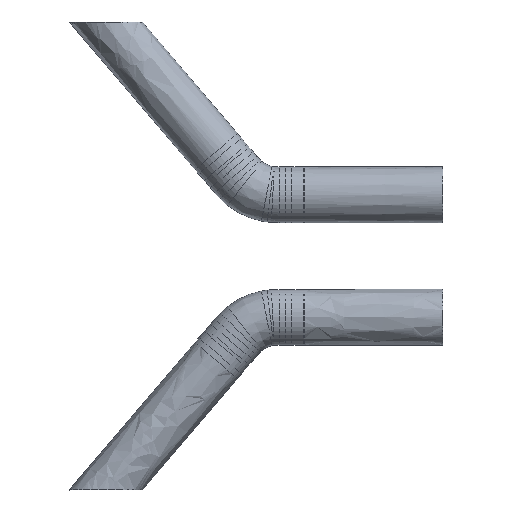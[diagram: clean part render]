
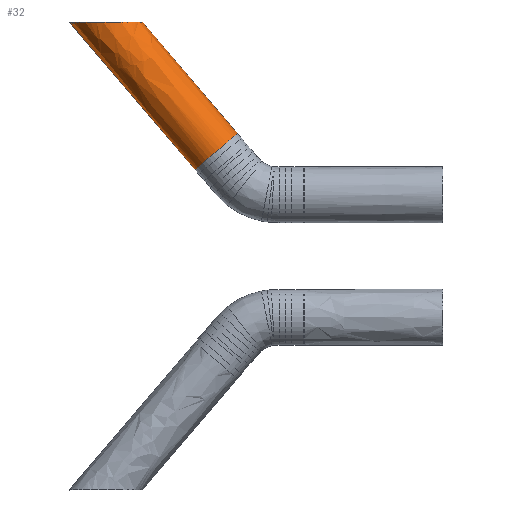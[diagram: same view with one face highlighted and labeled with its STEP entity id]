
A CAD part, top view. The second image highlights one B-rep face of the part: STEP entity #32.
In plain terms, the highlighted free-form (B-spline) face has degree [3, 2] with [5, 9] control points.
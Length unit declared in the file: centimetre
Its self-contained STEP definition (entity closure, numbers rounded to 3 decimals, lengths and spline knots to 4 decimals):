
#32=ADVANCED_FACE('',(#74),#722,.T.);
#74=FACE_OUTER_BOUND('',#116,.T.);
#116=EDGE_LOOP('',(#206,#207,#208,#209));
#206=ORIENTED_EDGE('',*,*,#408,.F.);
#207=ORIENTED_EDGE('',*,*,#410,.F.);
#208=ORIENTED_EDGE('',*,*,#416,.T.);
#209=ORIENTED_EDGE('',*,*,#409,.T.);
#408=EDGE_CURVE('',#636,#637,#508,.T.);
#409=EDGE_CURVE('',#669,#637,#586,.T.);
#410=EDGE_CURVE('',#668,#636,#587,.T.);
#416=EDGE_CURVE('',#668,#669,#486,.T.);
#486=B_SPLINE_CURVE_WITH_KNOTS('',3,(#1561,#1562,#1563,#1564,#1565,#1566,
#1567,#1568,#1569,#1570,#1571,#1572,#1573,#1574,#1575,#1576,#1577,#1578,
#1579,#1580,#1581,#1582),.UNSPECIFIED.,.F.,.F.,(4,2,2,2,3,2,2,2,3,4),(-15.4756,
-14.4548,-13.5072,-11.5503,-7.738,
-3.9248,-1.9679,-0.9848,0.,
0.),.UNSPECIFIED.);
#508=TRIMMED_CURVE($,#544,(#1511),(#1512),.T.,.CARTESIAN.);
#544=CIRCLE('',#869,4.2);
#586=(
BOUNDED_CURVE()
B_SPLINE_CURVE(3,(#1513,#1514,#1515,#1516,#1517),.UNSPECIFIED.,.F.,.F.)
B_SPLINE_CURVE_WITH_KNOTS((4,1,4),(0.,17.8797,29.2353),
 .UNSPECIFIED.)
CURVE()
GEOMETRIC_REPRESENTATION_ITEM()
RATIONAL_B_SPLINE_CURVE((1.,1.,1.,1.,1.))
REPRESENTATION_ITEM('')
);
#587=(
BOUNDED_CURVE()
B_SPLINE_CURVE(3,(#1518,#1519,#1520,#1521,#1522,#1523,#1524),
 .UNSPECIFIED.,.F.,.F.)
B_SPLINE_CURVE_WITH_KNOTS((4,3,4),(8.7728,19.5094,30.8618),
 .UNSPECIFIED.)
CURVE()
GEOMETRIC_REPRESENTATION_ITEM()
RATIONAL_B_SPLINE_CURVE((1.,1.,1.,1.,1.,1.,1.))
REPRESENTATION_ITEM('')
);
#636=VERTEX_POINT('',#1336);
#637=VERTEX_POINT('',#1337);
#668=VERTEX_POINT('',#1368);
#669=VERTEX_POINT('',#1369);
#722=(
BOUNDED_SURFACE()
B_SPLINE_SURFACE(3,2,((#1241,#1242,#1243,#1244,#1245,#1246,#1247,#1248,
#1249),(#1250,#1251,#1252,#1253,#1254,#1255,#1256,#1257,#1258),(#1259,#1260,
#1261,#1262,#1263,#1264,#1265,#1266,#1267),(#1268,#1269,#1270,#1271,#1272,
#1273,#1274,#1275,#1276),(#1277,#1278,#1279,#1280,#1281,#1282,#1283,#1284,
#1285)),.UNSPECIFIED.,.F.,.F.,.F.)
B_SPLINE_SURFACE_WITH_KNOTS((4,1,4),(3,2,2,2,3),(0.,19.508,30.8618),
(0.,6.5973,13.1947,19.792,26.3894),
 .UNSPECIFIED.)
GEOMETRIC_REPRESENTATION_ITEM()
RATIONAL_B_SPLINE_SURFACE(((1.,0.707,1.,0.707,1.,
0.707,1.,0.707,1.),(1.,0.707,1.,0.707,
1.,0.707,1.,0.707,1.),(1.,0.707,1.,
0.707,1.,0.707,1.,0.707,1.),(1.,0.707,
1.,0.707,1.,0.707,1.,0.707,1.),(1.,
0.707,1.,0.707,1.,0.707,1.,0.707,
1.)))
REPRESENTATION_ITEM('')
SURFACE()
);
#869=AXIS2_PLACEMENT_3D($,#1510,#950,#951);
#950=DIRECTION('',(0.649,-0.761,0.));
#951=DIRECTION('',(0.761,0.649,0.));
#1241=CARTESIAN_POINT('',(-864.748,149.0101,-0.0001));
#1242=CARTESIAN_POINT('',(-864.748,149.0101,-4.2001));
#1243=CARTESIAN_POINT('',(-867.9477,146.2895,-4.2001));
#1244=CARTESIAN_POINT('',(-871.1474,143.5689,-4.2001));
#1245=CARTESIAN_POINT('',(-871.1474,143.5689,-0.0001));
#1246=CARTESIAN_POINT('',(-871.1474,143.5689,4.1999));
#1247=CARTESIAN_POINT('',(-867.9477,146.2895,4.1999));
#1248=CARTESIAN_POINT('',(-864.748,149.0101,4.1999));
#1249=CARTESIAN_POINT('',(-864.748,149.0101,-0.0001));
#1250=CARTESIAN_POINT('',(-860.5353,144.0578,-0.0001));
#1251=CARTESIAN_POINT('',(-860.5353,144.0578,-4.2001));
#1252=CARTESIAN_POINT('',(-863.7344,141.3364,-4.2001));
#1253=CARTESIAN_POINT('',(-866.9334,138.6151,-4.2001));
#1254=CARTESIAN_POINT('',(-866.9334,138.6151,-0.0001));
#1255=CARTESIAN_POINT('',(-866.9335,138.6151,4.1999));
#1256=CARTESIAN_POINT('',(-863.7344,141.3365,4.1999));
#1257=CARTESIAN_POINT('',(-860.5353,144.0578,4.1999));
#1258=CARTESIAN_POINT('',(-860.5353,144.0578,-0.0001));
#1259=CARTESIAN_POINT('',(-853.8736,136.2121,0.));
#1260=CARTESIAN_POINT('',(-853.8736,136.2121,-4.2));
#1261=CARTESIAN_POINT('',(-857.0761,133.4947,-4.2));
#1262=CARTESIAN_POINT('',(-860.2785,130.7773,-4.2));
#1263=CARTESIAN_POINT('',(-860.2785,130.7773,0.));
#1264=CARTESIAN_POINT('',(-860.2786,130.7773,4.2));
#1265=CARTESIAN_POINT('',(-857.0761,133.4947,4.2));
#1266=CARTESIAN_POINT('',(-853.8736,136.2121,4.2));
#1267=CARTESIAN_POINT('',(-853.8736,136.2121,0.));
#1268=CARTESIAN_POINT('',(-847.205,128.3927,0.));
#1269=CARTESIAN_POINT('',(-847.205,128.3927,-4.2));
#1270=CARTESIAN_POINT('',(-850.4006,125.6673,-4.2));
#1271=CARTESIAN_POINT('',(-853.5962,122.9418,-4.2));
#1272=CARTESIAN_POINT('',(-853.5962,122.9418,0.));
#1273=CARTESIAN_POINT('',(-853.5962,122.9418,4.2));
#1274=CARTESIAN_POINT('',(-850.4006,125.6673,4.2));
#1275=CARTESIAN_POINT('',(-847.205,128.3927,4.2));
#1276=CARTESIAN_POINT('',(-847.205,128.3927,0.));
#1277=CARTESIAN_POINT('',(-844.7491,125.5112,0.));
#1278=CARTESIAN_POINT('',(-844.7491,125.5112,-4.2));
#1279=CARTESIAN_POINT('',(-847.9457,122.7869,-4.2));
#1280=CARTESIAN_POINT('',(-851.1423,120.0626,-4.2));
#1281=CARTESIAN_POINT('',(-851.1423,120.0626,0.));
#1282=CARTESIAN_POINT('',(-851.1423,120.0626,4.2));
#1283=CARTESIAN_POINT('',(-847.9457,122.7869,4.2));
#1284=CARTESIAN_POINT('',(-844.7491,125.5112,4.2));
#1285=CARTESIAN_POINT('',(-844.7491,125.5112,0.));
#1336=CARTESIAN_POINT('',(-844.7491,125.5112,0.));
#1337=CARTESIAN_POINT('',(-851.1423,120.0626,-0.0001));
#1368=CARTESIAN_POINT('',(-859.0653,142.3263,-0.0001));
#1369=CARTESIAN_POINT('',(-870.0905,142.3263,-0.0001));
#1510=CARTESIAN_POINT('',(-847.9457,122.7869,0.));
#1511=CARTESIAN_POINT('',(-844.7491,125.5112,0.));
#1512=CARTESIAN_POINT('',(-851.1423,120.0626,-0.0001));
#1513=CARTESIAN_POINT('',(-870.0905,142.3263,-0.0001));
#1514=CARTESIAN_POINT('',(-866.2299,137.7866,-0.0001));
#1515=CARTESIAN_POINT('',(-859.9254,130.3632,0.));
#1516=CARTESIAN_POINT('',(-853.5962,122.9418,0.));
#1517=CARTESIAN_POINT('',(-851.1423,120.0626,-0.0001));
#1518=CARTESIAN_POINT('',(-859.0653,142.3263,-0.0001));
#1519=CARTESIAN_POINT('',(-856.7474,139.5995,0.));
#1520=CARTESIAN_POINT('',(-854.4295,136.873,0.));
#1521=CARTESIAN_POINT('',(-852.1107,134.1497,0.));
#1522=CARTESIAN_POINT('',(-849.6583,131.2694,0.));
#1523=CARTESIAN_POINT('',(-847.205,128.3927,0.));
#1524=CARTESIAN_POINT('',(-844.7491,125.5112,0.));
#1561=CARTESIAN_POINT('',(-859.0653,142.3263,-0.0001));
#1562=CARTESIAN_POINT('',(-859.0653,142.3263,0.3381));
#1563=CARTESIAN_POINT('',(-859.1189,142.3263,0.6716));
#1564=CARTESIAN_POINT('',(-859.3173,142.3263,1.2925));
#1565=CARTESIAN_POINT('',(-859.4534,142.3263,1.5757));
#1566=CARTESIAN_POINT('',(-859.9712,142.3263,2.3853));
#1567=CARTESIAN_POINT('',(-860.4516,142.3263,2.8372));
#1568=CARTESIAN_POINT('',(-862.0426,142.3263,3.8758));
#1569=CARTESIAN_POINT('',(-863.333,142.3263,4.1999));
#1570=CARTESIAN_POINT('',(-864.5777,142.3263,4.1999));
#1571=CARTESIAN_POINT('',(-865.8224,142.3263,4.1999));
#1572=CARTESIAN_POINT('',(-867.1128,142.3263,3.8757));
#1573=CARTESIAN_POINT('',(-868.7038,142.3263,2.8373));
#1574=CARTESIAN_POINT('',(-869.1843,142.3263,2.3854));
#1575=CARTESIAN_POINT('',(-869.7086,142.3263,1.5658));
#1576=CARTESIAN_POINT('',(-869.8486,142.3263,1.2712));
#1577=CARTESIAN_POINT('',(-870.0406,142.3263,0.6483));
#1578=CARTESIAN_POINT('',(-870.0905,142.3263,0.3262));
#1579=CARTESIAN_POINT('',(-870.0905,142.3263,-0.0001));
#1580=CARTESIAN_POINT('',(-870.0905,142.3263,-0.0001));
#1581=CARTESIAN_POINT('',(-870.0905,142.3263,-0.0001));
#1582=CARTESIAN_POINT('',(-870.0905,142.3263,-0.0001));
